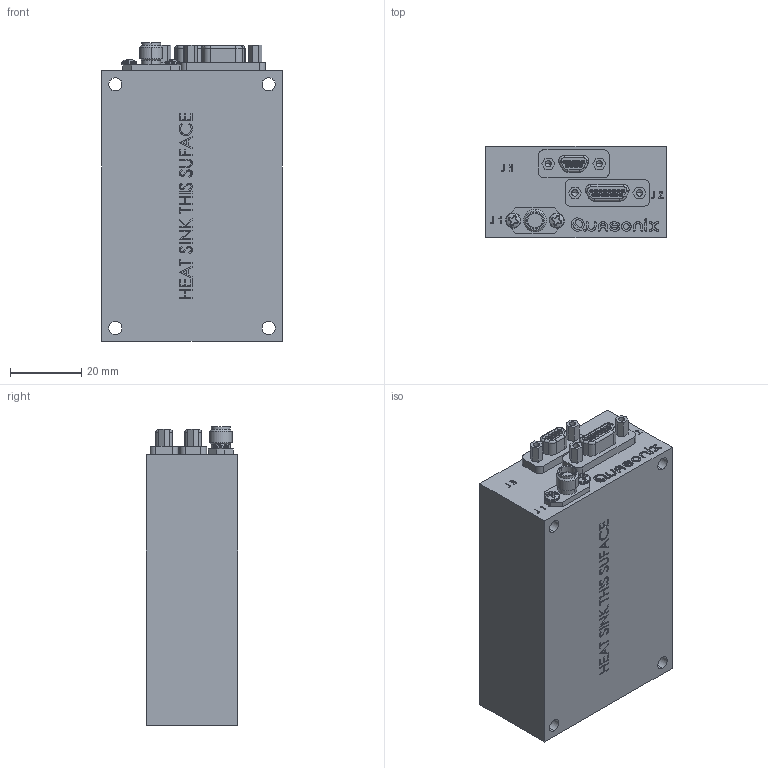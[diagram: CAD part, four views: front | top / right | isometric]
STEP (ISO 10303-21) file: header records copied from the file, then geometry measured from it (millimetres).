
FILE_DESCRIPTION (( 'STEP AP203' ), '1' );
FILE_NAME ('06AN.STEP', '2022-04-03T14:08:33', ( '' ), ( '' ), 'SwSTEP 2.0', 'SolidWorks 2021', '' );
FILE_SCHEMA (( 'CONFIG_CONTROL_DESIGN' ));
Length unit declared in the file: inch
Products named in the file (1): 06AN
Bounding box: 50.8 x 25.7 x 84.14 mm (x, y, z)
Volume: 100174.2 mm3; surface area: 18469.9 mm2
Topology: 34 solids, 34 shells, 863 faces, 2110 edges, 1386 vertices
Faces by surface type: plane 435, bspline 195, cylinder 187, cone 24, torus 18, sphere 4
Entity records: 31473 total; most frequent: CARTESIAN_POINT 12055, ORIENTED_EDGE 4196, DIRECTION 3500, EDGE_CURVE 2098, VERTEX_POINT 1386, VECTOR 1222, LINE 1222, AXIS2_PLACEMENT_3D 1139
